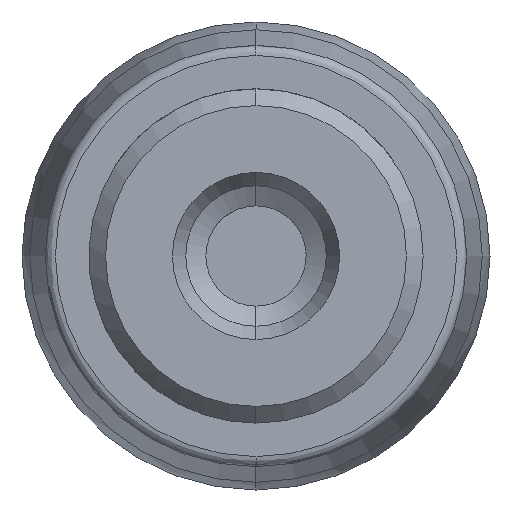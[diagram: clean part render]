
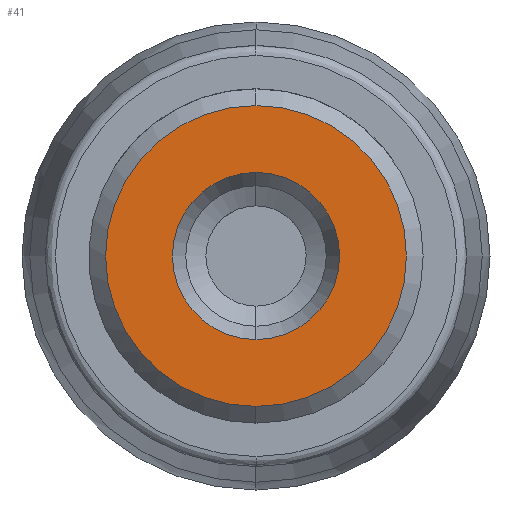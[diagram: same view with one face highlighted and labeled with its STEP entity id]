
A CAD part, left-side view. The second image highlights one B-rep face of the part: STEP entity #41.
In plain terms, the highlighted planar face has unit normal (-1, 0, 0).
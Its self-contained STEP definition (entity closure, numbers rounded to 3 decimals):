
#41=ADVANCED_FACE('',(#100,#101),#99,.F.);
#99=PLANE('',#594);
#100=FACE_OUTER_BOUND('',#595,.T.);
#101=FACE_BOUND('',#596,.T.);
#591=CARTESIAN_POINT('',(-23.,-9.353,5.85));
#592=DIRECTION('',(1.,0.,0.));
#593=DIRECTION('',(0.,0.,-1.));
#594=AXIS2_PLACEMENT_3D('',#591,#592,#593);
#595=EDGE_LOOP('',(#1090,#1091));
#596=EDGE_LOOP('',(#1092,#1093));
#1090=ORIENTED_EDGE('',*,*,#1304,.T.);
#1091=ORIENTED_EDGE('',*,*,#1305,.T.);
#1092=ORIENTED_EDGE('',*,*,#1306,.F.);
#1093=ORIENTED_EDGE('',*,*,#1307,.F.);
#1304=EDGE_CURVE('',#1423,#1424,#1425,.T.);
#1305=EDGE_CURVE('',#1424,#1423,#1431,.T.);
#1306=EDGE_CURVE('',#1437,#1438,#1439,.T.);
#1307=EDGE_CURVE('',#1438,#1437,#1445,.T.);
#1423=VERTEX_POINT('',#2126);
#1424=VERTEX_POINT('',#2127);
#1425=CIRCLE('',#2131,4.5);
#1431=CIRCLE('',#2135,4.5);
#1437=VERTEX_POINT('',#2136);
#1438=VERTEX_POINT('',#2137);
#1439=CIRCLE('',#2141,2.5);
#1445=CIRCLE('',#2145,2.5);
#2126=CARTESIAN_POINT('',(-23.,0.,4.5));
#2127=CARTESIAN_POINT('',(-23.,0.,-4.5));
#2128=CARTESIAN_POINT('',(-23.,0.,0.));
#2129=DIRECTION('',(-1.,0.,0.));
#2130=DIRECTION('',(0.,0.,1.));
#2131=AXIS2_PLACEMENT_3D('',#2128,#2129,#2130);
#2132=CARTESIAN_POINT('',(-23.,0.,0.));
#2133=DIRECTION('',(-1.,0.,0.));
#2134=DIRECTION('',(0.,0.,1.));
#2135=AXIS2_PLACEMENT_3D('',#2132,#2133,#2134);
#2136=CARTESIAN_POINT('',(-23.,0.,-2.5));
#2137=CARTESIAN_POINT('',(-23.,0.,2.5));
#2138=CARTESIAN_POINT('',(-23.,0.,0.));
#2139=DIRECTION('',(-1.,0.,0.));
#2140=DIRECTION('',(0.,0.,1.));
#2141=AXIS2_PLACEMENT_3D('',#2138,#2139,#2140);
#2142=CARTESIAN_POINT('',(-23.,0.,0.));
#2143=DIRECTION('',(-1.,0.,0.));
#2144=DIRECTION('',(0.,0.,1.));
#2145=AXIS2_PLACEMENT_3D('',#2142,#2143,#2144);
